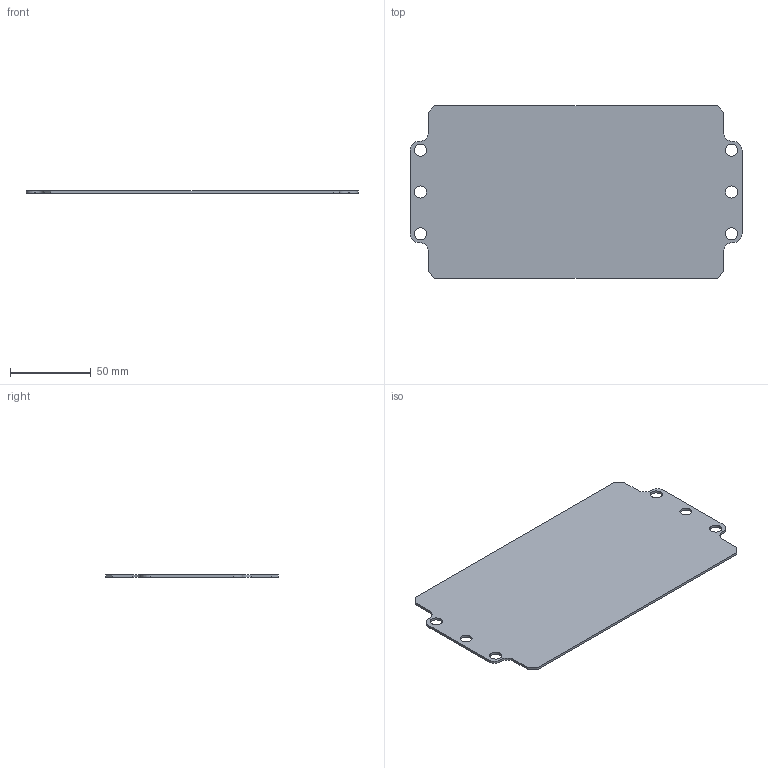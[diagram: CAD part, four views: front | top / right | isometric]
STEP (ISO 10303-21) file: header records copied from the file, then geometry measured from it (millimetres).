
FILE_DESCRIPTION (( 'STEP AP203' ), '1' );
FILE_NAME ('a220120p.STEP', '2013-06-05T17:48:41', ( 'User' ), ( 'Pentair Inc' ), 'SwSTEP 2.0', 'SolidWorks 2010', '' );
FILE_SCHEMA (( 'CONFIG_CONTROL_DESIGN' ));
Length unit declared in the file: inch
Products named in the file (1): a220120p
Bounding box: 206 x 107 x 1.5 mm (x, y, z)
Volume: 31099.4 mm3; surface area: 42574.5 mm2
Topology: 1 solids, 1 shells, 38 faces, 108 edges, 72 vertices
Faces by surface type: cylinder 20, plane 18
Entity records: 1355 total; most frequent: DIRECTION 226, CARTESIAN_POINT 219, ORIENTED_EDGE 216, EDGE_CURVE 108, AXIS2_PLACEMENT_3D 79, VERTEX_POINT 72, VECTOR 68, LINE 68
